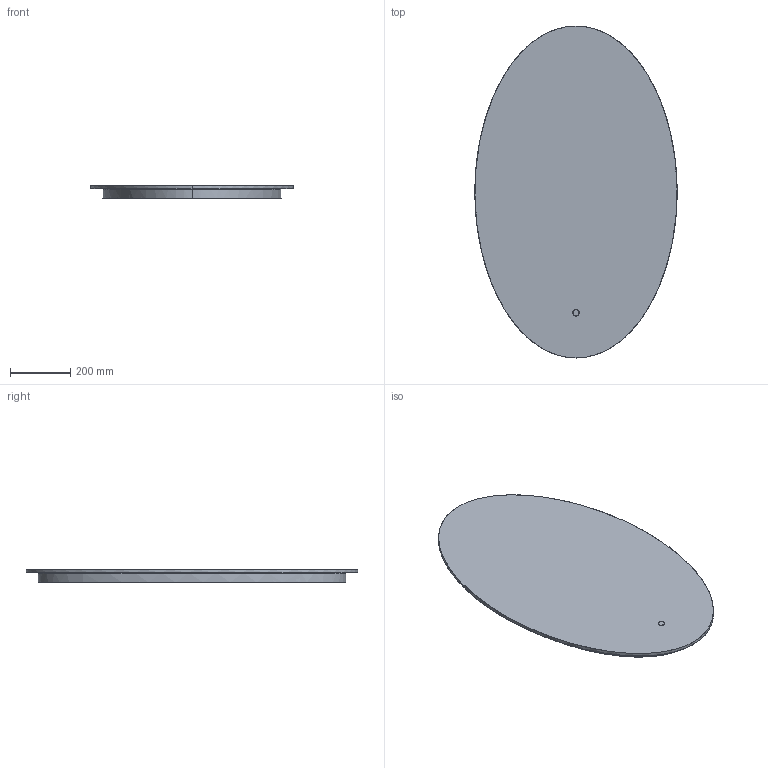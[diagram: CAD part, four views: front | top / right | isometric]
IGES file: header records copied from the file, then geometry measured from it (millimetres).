
Start section: SolidWorks IGES file using analytic representation for surfaces
Global section: file name: C:\Users\danielet\Desktop\3D CARLOS\ADRIANA-A9406-3D\ADRIANA-A9406-3D.IGS; native system: SolidWorks 2018; preprocessor: SolidWorks 2018; author: danielet; date: 220104.123639; units: millimetre
Bounding box: 670 x 1100 x 43 mm (x, y, z)
Surface area: 1347688.3 mm2 (no closed solid volume)
Topology: 0 solids, 0 shells, 16 faces, 664 edges, 664 vertices
Faces by surface type: bspline 12, revolution 4
